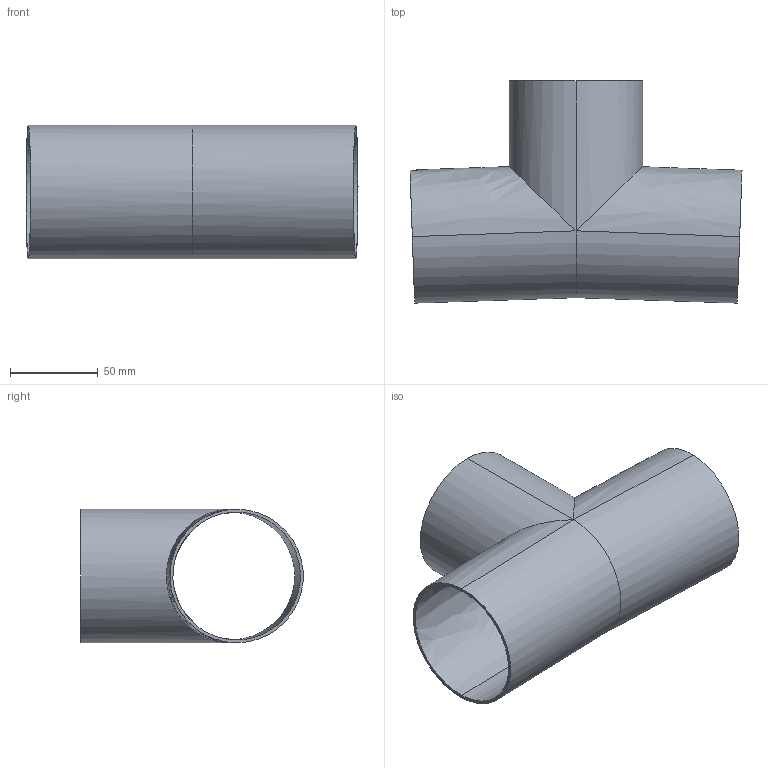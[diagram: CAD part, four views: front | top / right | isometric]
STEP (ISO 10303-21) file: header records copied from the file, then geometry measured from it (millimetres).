
FILE_DESCRIPTION (( 'STEP AP214' ), '1' );
FILE_NAME ('TE7WWW1766L3.0-...STEP', '2016-05-23T05:28:04', ( 'eran' ), ( '' ), 'SwSTEP 2.0', 'SolidWorks 2016', '' );
FILE_SCHEMA (( 'AUTOMOTIVE_DESIGN' ));
Length unit declared in the file: millimetre
Products named in the file (1): TE7WWW1766L3.0-..
Bounding box: 189.47 x 126.78 x 76.2 mm (x, y, z)
Volume: 87323.1 mm3; surface area: 106942.4 mm2
Topology: 1 solids, 1 shells, 15 faces, 30 edges, 16 vertices
Faces by surface type: bspline 8, cylinder 4, plane 3
Entity records: 1956 total; most frequent: CARTESIAN_POINT 1658, ORIENTED_EDGE 60, DIRECTION 40, EDGE_CURVE 30, EDGE_LOOP 18, VERTEX_POINT 16, FACE_OUTER_BOUND 15, ADVANCED_FACE 15
